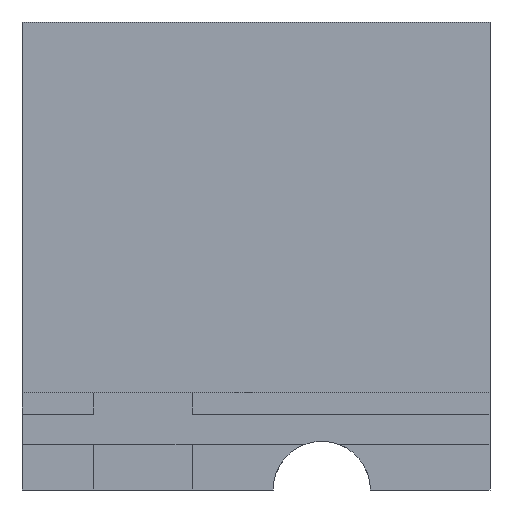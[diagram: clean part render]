
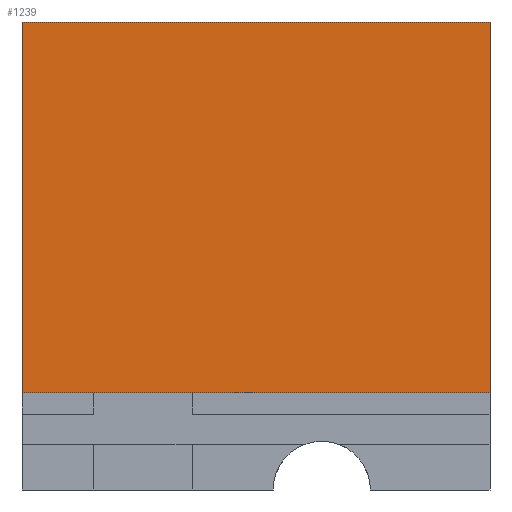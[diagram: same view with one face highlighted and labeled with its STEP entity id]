
A CAD part, front view. The second image highlights one B-rep face of the part: STEP entity #1239.
In plain terms, the highlighted planar face has unit normal (0, -1, 0).
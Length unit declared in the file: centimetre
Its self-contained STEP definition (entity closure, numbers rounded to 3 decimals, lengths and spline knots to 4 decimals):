
#16 = VERTEX_POINT ( 'NONE', #293 ) ;
#133 = VERTEX_POINT ( 'NONE', #206 ) ;
#145 = CARTESIAN_POINT ( 'NONE',  ( 0., 0., 1000. ) ) ;
#151 = DIRECTION ( 'NONE',  ( 0., 0., -1. ) ) ;
#206 = CARTESIAN_POINT ( 'NONE',  ( 1000., 0., 208.1627 ) ) ;
#248 = LINE ( 'NONE', #260, #686 ) ;
#260 = CARTESIAN_POINT ( 'NONE',  ( 1000., 0., 1000. ) ) ;
#269 = VERTEX_POINT ( 'NONE', #1279 ) ;
#293 = CARTESIAN_POINT ( 'NONE',  ( 0., 0., 208.1627 ) ) ;
#341 = ORIENTED_EDGE ( 'NONE', *, *, #713, .T. ) ;
#407 = EDGE_CURVE ( 'NONE', #269, #884, #1019, .T. ) ;
#415 = ORIENTED_EDGE ( 'NONE', *, *, #407, .F. ) ;
#474 = VECTOR ( 'NONE', #1490, 100. ) ;
#574 = EDGE_LOOP ( 'NONE', ( #341, #911, #816, #415 ) ) ;
#662 = AXIS2_PLACEMENT_3D ( 'NONE', #1012, #1114, #782 ) ;
#686 = VECTOR ( 'NONE', #1178, 100. ) ;
#713 = EDGE_CURVE ( 'NONE', #269, #16, #1193, .T. ) ;
#782 = DIRECTION ( 'NONE',  ( 0., 0., 1. ) ) ;
#816 = ORIENTED_EDGE ( 'NONE', *, *, #948, .F. ) ;
#817 = CARTESIAN_POINT ( 'NONE',  ( 1000., 0., 208.1627 ) ) ;
#884 = VERTEX_POINT ( 'NONE', #974 ) ;
#911 = ORIENTED_EDGE ( 'NONE', *, *, #1400, .F. ) ;
#948 = EDGE_CURVE ( 'NONE', #884, #133, #248, .T. ) ;
#974 = CARTESIAN_POINT ( 'NONE',  ( 1000., 0., 1000. ) ) ;
#1009 = CARTESIAN_POINT ( 'NONE',  ( 0., 0., 1000. ) ) ;
#1012 = CARTESIAN_POINT ( 'NONE',  ( 0., 0., 1000. ) ) ;
#1017 = LINE ( 'NONE', #817, #1025 ) ;
#1019 = LINE ( 'NONE', #1009, #474 ) ;
#1025 = VECTOR ( 'NONE', #1137, 100. ) ;
#1114 = DIRECTION ( 'NONE',  ( 0., 1., 0. ) ) ;
#1123 = VECTOR ( 'NONE', #151, 100. ) ;
#1137 = DIRECTION ( 'NONE',  ( -1., 0., 0. ) ) ;
#1178 = DIRECTION ( 'NONE',  ( 0., 0., -1. ) ) ;
#1193 = LINE ( 'NONE', #145, #1123 ) ;
#1227 = FACE_OUTER_BOUND ( 'NONE', #574, .T. ) ;
#1239 = ADVANCED_FACE ( 'NONE', ( #1227 ), #1480, .F. ) ;
#1279 = CARTESIAN_POINT ( 'NONE',  ( 0., 0., 1000. ) ) ;
#1400 = EDGE_CURVE ( 'NONE', #133, #16, #1017, .T. ) ;
#1480 = PLANE ( 'NONE',  #662 ) ;
#1490 = DIRECTION ( 'NONE',  ( 1., 0., 0. ) ) ;
